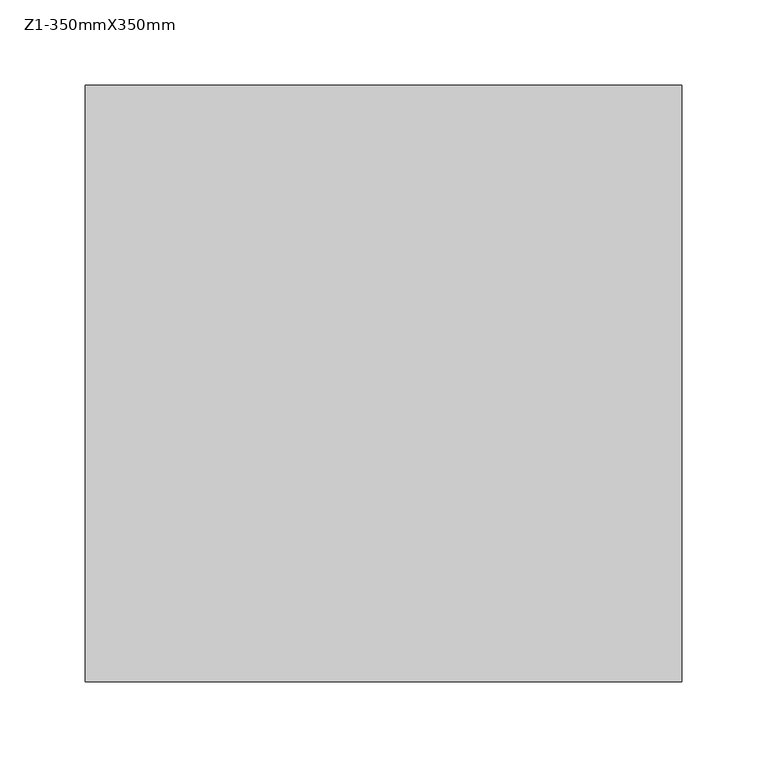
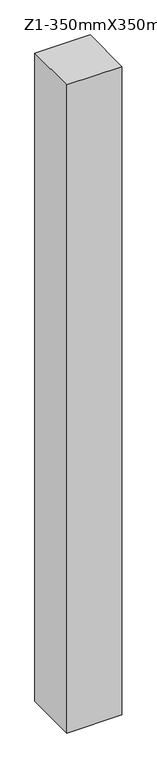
"""IFC4 building model written with IfcOpenShell, lengths in millimetres: column geometry, 混凝土 - 矩形 - 柱 : Z1-350mmX350mm."""

from ifc_helpers import new_model, si_unit, frame, origin, place, context, project, spatial, polyline, outline, extrude, source, transform, mapped, element, save


def z1_350mmx350mm_4dd75d84(model_context):
    return source(origin(), model_context, "Body", "SweptSolid", [
        extrude(outline(polyline([(175.0, 175.0), (175.0, -175.0), (-175.0, -175.0), (-175.0, 175.0), (175.0, 175.0)])), frame((0.0, 0.0, -450.0), z_axis=(0.0, 0.0, 1.0), x_axis=(1.0, 0.0, 0.0)), (0.0, 0.0, 1.0), 4350.0),
    ])


if __name__ == "__main__":
    model = new_model("IFC4")
    model_context = context("Model", 3, world=origin())
    ifc_project = project(units=[si_unit("LENGTHUNIT", "METRE", prefix="MILLI")], contexts=[model_context])
    site = spatial("IfcSite", under=ifc_project)
    building = spatial("IfcBuilding", under=site)
    placement = place(None, origin())
    z1_350mmx350mm_shape = z1_350mmx350mm_4dd75d84(model_context)
    element("IfcColumn", 1, ObjectType="混凝土 - 矩形 - 柱 : Z1-350mmX350mm", at=placement, inside=building, context=model_context, shape_type="MappedRepresentation", body=[
        mapped(z1_350mmx350mm_shape, transform((0.0, 0.0, 0.0), x_axis=(1.0, 0.0, 0.0), y_axis=(0.0, 1.0, 0.0), z_axis=(0.0, 0.0, 1.0))),
    ])
    save(model, "model.ifc")
